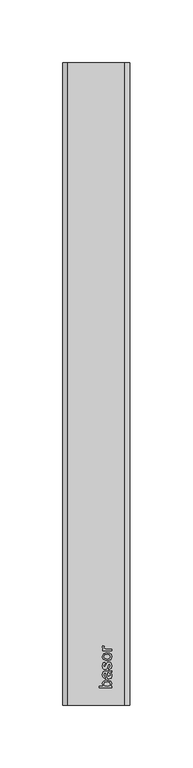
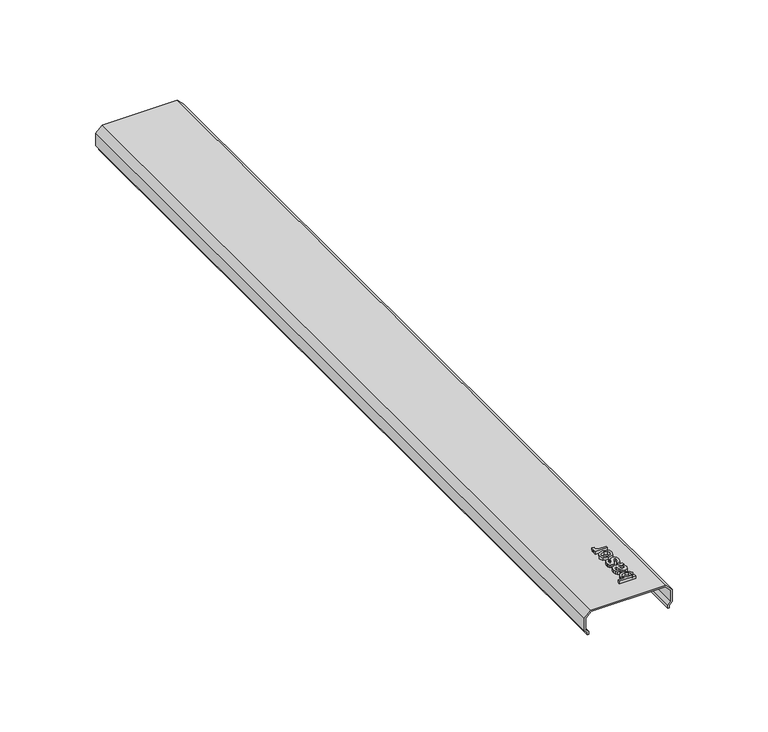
"""IFC4 building model written with IfcOpenShell, lengths in millimetres: proxy geometry, Cable_Tray_Cover_T ERE 50_Basortray : Basortray TERE 50-GS."""

from ifc_helpers import new_model, si_unit, frame, origin, place, context, project, spatial, polyline, outline, extrude, source, transform, mapped, element, save


def generic_models_e8f70c77(model_context):
    return source(origin(), model_context, "Body", "SweptSolid", [
        extrude(outline(polyline([(12.2098552, 14.8513938), (12.2098552, 13.6206246), (2.3637014, 13.6206246), (2.3637014, 14.8513938), (6.0151437, 14.8513938), (4.8252399, 16.7840861), (5.0932687, 18.0172592), (5.8468745, 18.97399), (7.0187495, 19.5617303), (8.4862975, 19.7744707), (11.3516822, 18.8934611), (12.3637014, 16.7768746), (11.0584129, 14.8513938), (12.2098552, 14.8513938)]), holes=[polyline([(8.5439899, 14.8513938), (10.2651437, 15.1879323), (11.1329322, 16.6711053), (10.4935091, 17.988413), (8.5872591, 18.5437015), (6.6737975, 18.0112496), (6.0560091, 16.72399), (6.6954322, 15.4066823), (8.5439899, 14.8513938)])]), frame((0.0, 0.0, 1.5), z_axis=(0.0, 0.0, 1.0), x_axis=(1.0, 0.0, 0.0)), (0.0, 0.0, 1.0), 1.65),
        extrude(outline(polyline([(11.2867783, 25.7744707), (12.1209129, 24.5809611), (12.3637014, 23.2624515), (11.7795668, 21.4751919), (10.2867783, 20.8513938), (9.3132206, 21.0869707), (8.6064899, 21.7059611), (8.2026437, 22.56774), (8.0175475, 23.6326438), (7.5944706, 25.7672592), (6.4117783, 25.4355284), (6.0560091, 24.0749515), (6.2927879, 22.8297592), (7.1329322, 22.2360092), (6.979086, 21.00524), (5.7771629, 21.5376919), (5.072836, 22.6098073), (4.8252399, 24.2336053), (5.0439899, 25.7251919), (5.5932687, 26.56774), (6.4286052, 26.9451438), (7.5055283, 27.00524), (9.0367783, 27.00524), (11.1749995, 27.06774), (12.2098552, 27.3129323), (12.2098552, 26.082163), (11.2867783, 25.7744707)]), holes=[polyline([(8.9995187, 25.770865), (9.2026437, 23.7888938), (9.4021629, 22.7299996), (11.1329322, 23.5244707), (10.838461, 24.769663), (10.1257206, 25.5725477), (8.9995187, 25.770865)])]), frame((0.0, 0.0, 1.5), z_axis=(0.0, 0.0, 1.0), x_axis=(1.0, 0.0, 0.0)), (0.0, 0.0, 1.0), 1.65),
        extrude(outline(polyline([(10.0560091, 28.2360092), (9.9021629, 29.4667784), (10.8156245, 30.03649), (11.1329322, 31.3417784), (10.8420668, 32.5965861), (10.1593745, 33.00524), (9.2555283, 31.3273553), (8.6533649, 29.47399), (7.9502399, 28.6650957), (6.9574514, 28.3898553), (6.0403841, 28.6110092), (5.3396629, 29.2143746), (4.9754802, 29.9968265), (4.8252399, 31.0557207), (5.0668264, 32.5533169), (5.7206725, 33.50524), (6.8252399, 33.9283169), (6.979086, 32.6975477), (6.2999995, 32.2348073), (6.0560091, 31.1518746), (6.2891822, 29.97399), (7.7242783, 31.28649), (8.3036052, 33.0929803), (8.9598552, 33.9319227), (10.0295668, 34.2360092), (11.2074514, 33.879038), (12.0620187, 32.84899), (12.3637014, 31.3249515), (11.7819706, 29.1783169), (10.0560091, 28.2360092)])), frame((0.0, 0.0, 1.5), z_axis=(0.0, 0.0, 1.0), x_axis=(1.0, 0.0, 0.0)), (0.0, 0.0, 1.0), 1.65),
        extrude(outline(polyline([(8.5944706, 35.3129323), (5.6257206, 36.3778361), (4.8252399, 38.5461053), (5.7999995, 40.8718265), (8.4935091, 41.7744707), (10.6834129, 41.3754323), (11.9225956, 40.2131727), (12.3637014, 38.5461053), (11.3925475, 36.2059611), (8.5944706, 35.3129323)]), holes=[polyline([(8.5920668, 36.5437015), (10.4995187, 37.113413), (11.1329322, 38.5461053), (10.4959129, 39.97399), (8.5536052, 40.5437015), (6.6894225, 39.9703842), (6.0560091, 38.5461053), (6.6870187, 37.113413), (8.5920668, 36.5437015)])]), frame((0.0, 0.0, 1.5), z_axis=(0.0, 0.0, 1.0), x_axis=(1.0, 0.0, 0.0)), (0.0, 0.0, 1.0), 1.65),
        extrude(outline(polyline([(12.2098552, 43.1590861), (4.979086, 43.1590861), (4.979086, 44.2360092), (6.0487975, 44.2360092), (5.0632206, 45.0004323), (4.8252399, 45.769663), (5.2050475, 47.00524), (6.3084129, 46.5941823), (6.0560091, 45.7287977), (6.9718745, 44.5893746), (8.4093745, 44.3898553), (12.2098552, 44.3898553), (12.2098552, 43.1590861)])), frame((0.0, 0.0, 1.5), z_axis=(0.0, 0.0, 1.0), x_axis=(1.0, 0.0, 0.0)), (0.0, 0.0, 1.0), 1.65),
        extrude(outline(polyline([(-13.5, 24.6511298), (-11.9262105, 24.6511298), (-10.0773403, 26.5), (-2.3067935, 26.5), (1.5, 22.6932065), (1.5, -22.6932065), (-2.3067935, -26.5), (-10.0773403, -26.5), (-11.9262105, -24.6511298), (-13.5, -24.6511298), (-13.5, -23.8511298), (-11.5948396, -23.8511298), (-9.7459695, -25.7), (-2.6381643, -25.7), (0.7, -22.3618357), (0.7, 22.3618357), (-2.6381643, 25.7), (-9.7459695, 25.7), (-11.5948396, 23.8511298), (-13.5, 23.8511298), (-13.5, 24.6511298)])), frame((0.0, 0.0, 0.0), z_axis=(0.0, 1.0, 0.0), x_axis=(0.0, 0.0, 1.0)), (0.0, 0.0, 1.0), 510.396405),
    ])


if __name__ == "__main__":
    model = new_model("IFC4")
    model_context = context("Model", 3, world=origin())
    ifc_project = project(units=[si_unit("LENGTHUNIT", "METRE", prefix="MILLI")], contexts=[model_context])
    site = spatial("IfcSite", under=ifc_project)
    building = spatial("IfcBuilding", under=site)
    placement = place(None, origin())
    generic_models_shape = generic_models_e8f70c77(model_context)
    element("IfcBuildingElementProxy", 1, Name="Cable_Tray_Cover_T ERE 50_Basortray : Basortray TERE 50-GS", ObjectType="Cable_Tray_Cover_T ERE 50_Basortray : Basortray TERE 50-GS", at=placement, inside=building, context=model_context, shape_type="MappedRepresentation", body=[
        mapped(generic_models_shape, transform((0.0, 0.0, 0.0), x_axis=(1.0, 0.0, 0.0), y_axis=(0.0, 1.0, 0.0), z_axis=(0.0, 0.0, 1.0))),
    ])
    save(model, "model.ifc")
